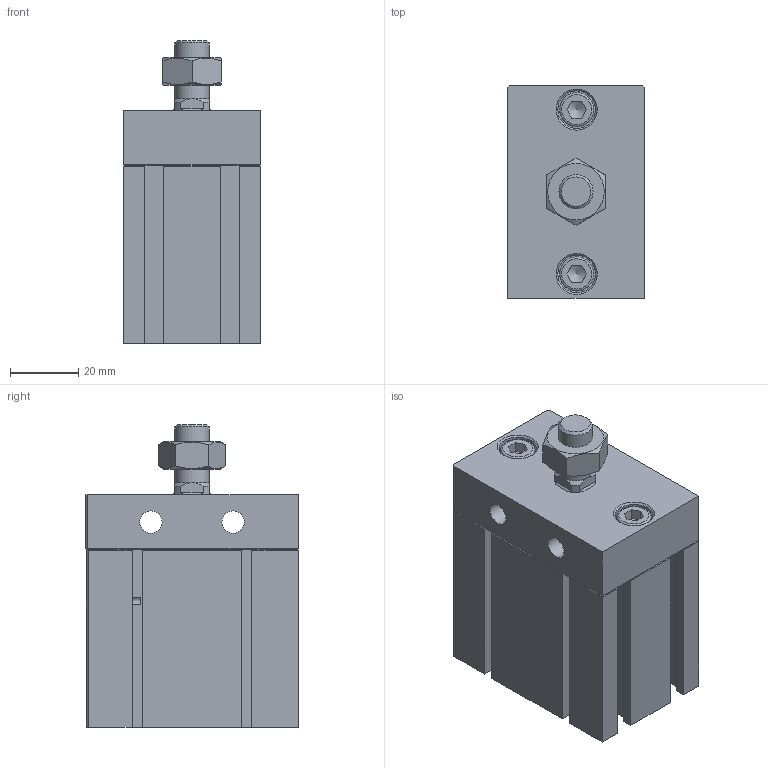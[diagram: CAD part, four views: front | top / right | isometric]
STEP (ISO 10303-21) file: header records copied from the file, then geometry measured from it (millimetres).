
FILE_DESCRIPTION((''),'2;1');
FILE_NAME('I:\3D電子目錄\氣缸\ND\ND\ND32-B\ND32x20-B.stp','2007-07-24T20:12:21',('Administrator'),(''),'Autodesk Inventor 11','Autodesk Inventor 11','');
FILE_SCHEMA(('AUTOMOTIVE_DESIGN { 1 0 10303 214 1 1 1 1 }'));
Length unit declared in the file: millimetre
Products named in the file (4): ND32-B; R 形環 34; ISO 4762 M6 x 16
Assembly tree (4 placements, depth 2):
  ND32-B
    ND32-B
    R 形環 34
    ISO 4762 M6 x 16  x2
Bounding box: 40 x 62.1 x 88.5 mm (x, y, z)
Volume: 149782.2 mm3; surface area: 33713.2 mm2
Topology: 5 solids, 5 shells, 205 faces, 501 edges, 319 vertices
Faces by surface type: plane 141, cylinder 27, cone 20, bspline 14, torus 3
Full cylindrical faces by diameter (mm): 1.9 x2, 2.2 x2, 6 x2, 6.5 x2, 10 x4, 11 x2, 23 x1, 34 x1, 36 x1
Entity records: 5531 total; most frequent: CARTESIAN_POINT 1147, DIRECTION 860, ORIENTED_EDGE 844, EDGE_CURVE 422, VECTOR 302, LINE 302, VERTEX_POINT 292, AXIS2_PLACEMENT_3D 279
